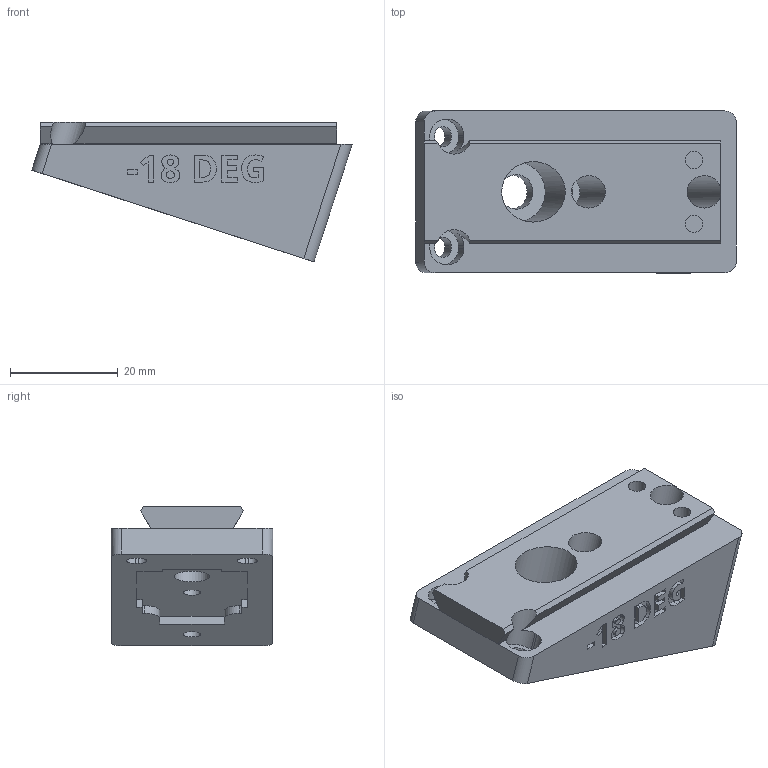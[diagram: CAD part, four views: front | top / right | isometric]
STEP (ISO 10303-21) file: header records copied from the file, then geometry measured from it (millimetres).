
FILE_DESCRIPTION(/* description */ ('STEP AP242 Edition 2','CAx-IF Rec.Pracs.---Representation and Presentation of Product Manufacturing Information (PMI)---4.0---2014-10-13','CAx-IF Rec.Pracs.---3D Tessellated Geometry---0.4---2014-09-14','2;1','CAx-IF Rec.Pracs.---User Defined Attributes---1.5---2016-08-15'),/* implementation_level */ '2;1');
FILE_NAME(/* name */ 'Camera Wedges - CAMERA MOUNTING WEDGE, NEG, -18 DEG',/* time_stamp */ '2026-07-08T20:34:58Z',/* author */ (''),/* organization */ (''),/* preprocessor_version */ 'ST-DEVELOPER v20',/* originating_system */ 'ONSHAPE BY PTC INC, 1.217',/* authorisation */ ' ');
FILE_SCHEMA (('AP242_MANAGED_MODEL_BASED_3D_ENGINEERING_MIM_LF { 1 0 10303 442 3 1 4 }'));
Length unit declared in the file: metre
Products named in the file (1): CAMERA MOUNTING WEDGE, NEG, -18 DEG
Bounding box: 59.38 x 30 x 25.88 mm (x, y, z)
Volume: 23398.9 mm3; surface area: 8171.4 mm2
Topology: 1 solids, 1 shells, 271 faces, 736 edges, 490 vertices
Faces by surface type: plane 143, bspline 80, cylinder 48
Full cylindrical faces by diameter (mm): 3.2 x4, 6 x2, 6.4 x1, 11.2 x1
Entity records: 8776 total; most frequent: CARTESIAN_POINT 2368, ORIENTED_EDGE 1454, DIRECTION 1060, EDGE_CURVE 727, VERTEX_POINT 489, LINE 458, VECTOR 458, EDGE_LOOP 312
